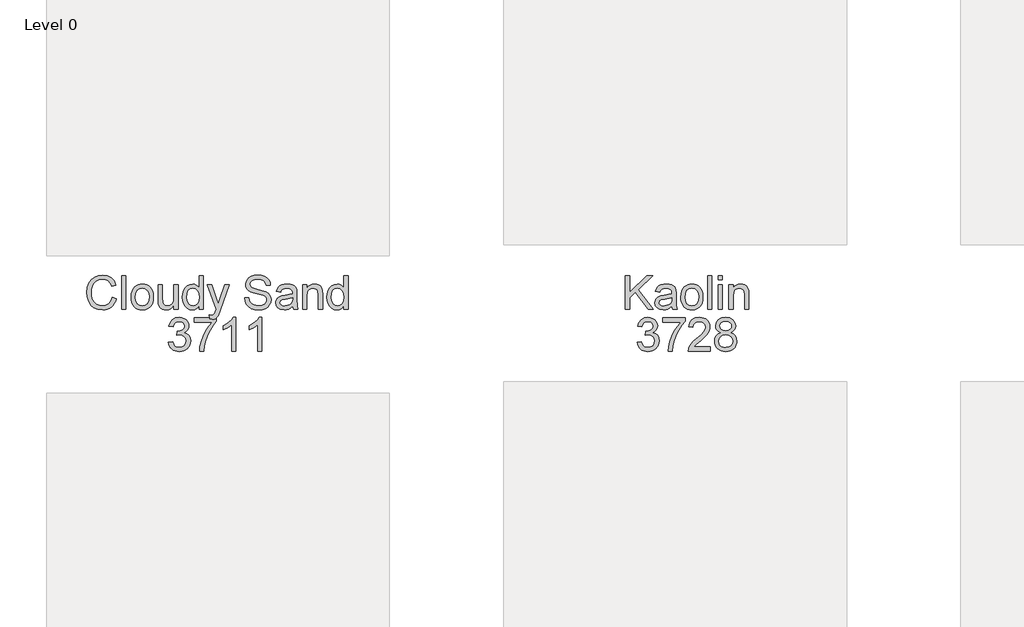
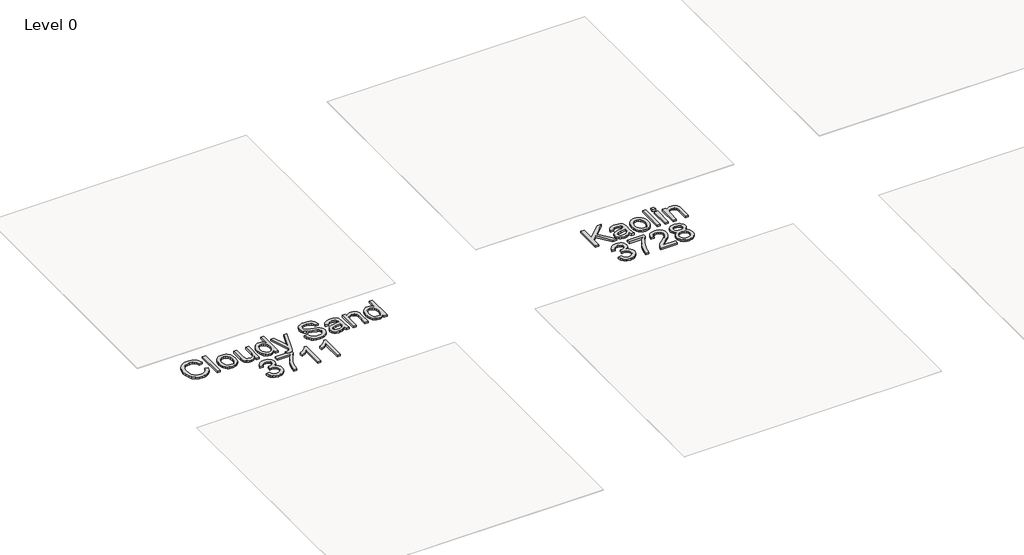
# One storey, part 2 of 14: 2 proxies.
"""IFC4 building model written with IfcOpenShell, lengths in millimetres."""

import ifcopenshell
import ifcopenshell.guid

model = None  # the IFC model being written
_history = None  # IfcOwnerHistory: only IFC2X3 demands one
_inside = {}  # id of a spatial element -> (the spatial element, [elements in it])
_under = {}  # id of a project, library or spatial element -> (it, [spatial elements below it])
_declared = {}  # id of a project -> (the project, [libraries it declares])
_typed = {}  # id of a type object -> (the type object, [elements of that type])
_made_of = {}  # id of a material, layer set ... -> (it, [elements and type objects made of it])


def new_model(schema):
    """Start an empty IFC model of exactly this schema.

    Asked for "IFC4X3", IfcOpenShell would pick the latest addendum, in which some entities
    have other attributes; the version numbers below select the first issue.
    IFC2X3 requires an IfcOwnerHistory on every rooted entity: one is made here for all.
    """
    global model, _history
    if schema == "IFC4X3":
        model = ifcopenshell.file(schema_version=(4, 3, 0, 0))
    else:
        model = ifcopenshell.file(schema=schema)
    _inside.clear()
    _under.clear()
    _declared.clear()
    _typed.clear()
    _made_of.clear()
    _history = None
    if model.schema == "IFC2X3":
        org = make("IfcOrganization", Name="unknown")
        user = make(
            "IfcPersonAndOrganization",
            ThePerson=make("IfcPerson", FamilyName="unknown"),
            TheOrganization=org,
        )
        app = make(
            "IfcApplication",
            ApplicationDeveloper=org,
            Version="unknown",
            ApplicationFullName="unknown",
            ApplicationIdentifier="unknown",
        )
        _history = make(
            "IfcOwnerHistory",
            OwningUser=user,
            OwningApplication=app,
            ChangeAction="ADDED",
            CreationDate=0,
        )
    return model


def make(cls, **values):
    """One entity of the class cls with the attributes given. An attribute that is None is left unset."""
    return model.create_entity(
        cls, **{name: value for name, value in values.items() if value is not None}
    )


def rooted(cls, **values):
    """An entity with a GlobalId (a new one), such as an element, a storey or a relation."""
    return make(cls, GlobalId=ifcopenshell.guid.new(), OwnerHistory=_history, **values)


def si_unit(unit_type, name, prefix=None):
    """IfcSIUnit, for example si_unit("LENGTHUNIT", "METRE", prefix="MILLI")."""
    return make("IfcSIUnit", UnitType=unit_type, Prefix=prefix, Name=name)


def assignment(units):
    """IfcUnitAssignment: the units of a project."""
    return None if units is None else make("IfcUnitAssignment", Units=units)


def point(xyz):
    """IfcCartesianPoint."""
    return None if xyz is None else make("IfcCartesianPoint", Coordinates=xyz)


def direction(xyz):
    """IfcDirection."""
    return None if xyz is None else make("IfcDirection", DirectionRatios=xyz)


def frame(location, z_axis=None, x_axis=None):
    """IfcAxis2Placement3D, a coordinate frame: its origin and axes. An axis left out is left unset."""
    return make(
        "IfcAxis2Placement3D",
        Location=point(location),
        Axis=direction(z_axis),
        RefDirection=direction(x_axis),
    )


def origin():
    """The frame at (0, 0, 0) with its axes left unset."""
    return frame((0.0, 0.0, 0.0))


def origin_with_axes():
    """The frame at (0, 0, 0) with the z axis (0, 0, 1) and the x axis (1, 0, 0) written out."""
    return frame((0.0, 0.0, 0.0), z_axis=(0.0, 0.0, 1.0), x_axis=(1.0, 0.0, 0.0))


def place(relative_to, where):
    """IfcLocalPlacement: puts the frame where relative to a parent placement (None: the world)."""
    return make(
        "IfcLocalPlacement", PlacementRelTo=relative_to, RelativePlacement=where
    )


def context(
    kind, dimensions, precision=None, world=None, true_north=None, identifier=None
):
    """IfcGeometricRepresentationContext, for example the 3D "Model" context."""
    return make(
        "IfcGeometricRepresentationContext",
        ContextIdentifier=identifier,
        ContextType=kind,
        CoordinateSpaceDimension=dimensions,
        Precision=precision,
        WorldCoordinateSystem=world,
        TrueNorth=true_north,
    )


def project(units=None, contexts=None):
    """IfcProject with its units and contexts."""
    return rooted(
        "IfcProject",
        Name="project",
        RepresentationContexts=contexts,
        UnitsInContext=assignment(units),
    )


def spatial(cls, under=None, at=None, **own):
    """A site, building, storey or space (cls), placed at a placement, below another one or the project."""
    s = rooted(cls, ObjectPlacement=at, **own)
    if under is not None:
        _under.setdefault(under.id(), (under, []))[1].append(s)
    return s


def polyline(points):
    """IfcPolyline through the points."""
    return make("IfcPolyline", Points=[point(p) for p in points])


def outline(outer, holes=None, kind="AREA"):
    """IfcArbitraryClosedProfileDef: a profile drawn as a closed curve; with holes, ...WithVoids."""
    if holes is None:
        return make("IfcArbitraryClosedProfileDef", ProfileType=kind, OuterCurve=outer)
    return make(
        "IfcArbitraryProfileDefWithVoids",
        ProfileType=kind,
        OuterCurve=outer,
        InnerCurves=holes,
    )


def extrude(swept, where, along, depth):
    """IfcExtrudedAreaSolid: the profile swept, set in the frame where, extruded along a direction by depth."""
    return make(
        "IfcExtrudedAreaSolid",
        SweptArea=swept,
        Position=where,
        ExtrudedDirection=direction(along),
        Depth=depth,
    )


def shape(context_of_items, identifier, shape_type, items):
    """IfcShapeRepresentation: the items that make up one representation, for example the "Body"."""
    return make(
        "IfcShapeRepresentation",
        ContextOfItems=context_of_items,
        RepresentationIdentifier=identifier,
        RepresentationType=shape_type,
        Items=items,
    )


def made_of(thing, what):
    """Note that an element or type object is made of a material, layer set ...; save() writes the relation."""
    if what is not None:
        _made_of.setdefault(what.id(), (what, []))[1].append(thing)
    return thing


def element(
    cls,
    number,
    at=None,
    inside=None,
    cuts=None,
    type_object=None,
    material=None,
    context=None,
    identifier="Body",
    shape_type=None,
    held_by="IfcProductDefinitionShape",
    body=None,
    shapes=None,
    **own,
):
    """One element of the class cls, such as IfcWall. Its Tag is "e" and its number.

    at: its placement. inside: the storey or other place that contains it. cuts: it is an
    opening in that element (IfcRelVoidsElement). A single representation is given by context,
    identifier, shape_type and body (its items); several are given by shapes. held_by: the class
    of the entity that holds the representations. save() writes the other relations.
    """
    e = rooted(cls, Tag="e%d" % number, ObjectPlacement=at, **own)
    if body is not None:
        shapes = [shape(context, identifier, shape_type, body)]
    if shapes is not None:
        e.Representation = make(held_by, Representations=shapes)
    if inside is not None:
        _inside.setdefault(inside.id(), (inside, []))[1].append(e)
    if cuts is not None:
        rooted(
            "IfcRelVoidsElement", RelatingBuildingElement=cuts, RelatedOpeningElement=e
        )
    if type_object is not None:
        _typed.setdefault(type_object.id(), (type_object, []))[1].append(e)
    return made_of(e, material)


def aggregate(whole, parts):
    """IfcRelAggregates: a whole, such as a stair, and the parts it consists of."""
    return rooted("IfcRelAggregates", RelatingObject=whole, RelatedObjects=parts)


def save(model, path):
    """Write the relations noted so far, then the file.

    IfcRelAggregates (storeys below a building ...), IfcRelContainedInSpatialStructure (elements
    in a storey), IfcRelDefinesByType, IfcRelAssociatesMaterial and IfcRelDeclares: one each for
    every whole, place, type object, material and project.
    """
    for whole, parts in _under.values():
        aggregate(whole, parts)
    for where, things in _inside.values():
        rooted(
            "IfcRelContainedInSpatialStructure",
            RelatedElements=things,
            RelatingStructure=where,
        )
    for kind, things in _typed.values():
        rooted("IfcRelDefinesByType", RelatedObjects=things, RelatingType=kind)
    for what, things in _made_of.values():
        rooted("IfcRelAssociatesMaterial", RelatedObjects=things, RelatingMaterial=what)
    for by, libraries in _declared.values():
        rooted("IfcRelDeclares", RelatingContext=by, RelatedDefinitions=libraries)
    model.write(path)


model = new_model("IFC4")

# Units and contexts
model_context = context("Model", 3, world=origin())
ifc_project = project(units=[si_unit("LENGTHUNIT", "METRE", prefix="MILLI")], contexts=[model_context])

# Site, building, storey
site = spatial("IfcSite", under=ifc_project)
building = spatial("IfcBuilding", under=site)
storey = spatial("IfcBuildingStorey", under=building, Name="Level 0", Elevation=0.0)

# Proxies
placement = place(None, origin())
element("IfcBuildingElementProxy", 1, Name="300mm Arial", ObjectType="300mm Arial", at=placement, inside=storey, context=model_context, shape_type="SweptSolid", body=[
    extrude(outline(polyline([(-8877.729111, -19232.1730179), (-8840.806034, -19241.6922486), (-8848.1122239, -19264.6542378), (-8857.8432937, -19284.71809), (-8869.9992432, -19301.8838051), (-8884.5800725, -19316.1513832), (-8901.2567552, -19327.3675792), (-8919.7002648, -19335.3791477), (-8939.9106014, -19340.1860888), (-8961.8877648, -19341.7884025), (-9004.7152889, -19336.9386429), (-9038.7267071, -19322.389364), (-9064.7964187, -19298.6453736), (-9083.7988225, -19266.2114794), (-9095.400385, -19228.0804698), (-9099.2675725, -19187.2451332), (-9094.8955773, -19144.1742198), (-9081.7795917, -19106.9807102), (-9060.6047119, -19076.8454938), (-9032.056034, -19054.9494602), (-8998.197861, -19041.6171284), (-8961.0944956, -19037.1730179), (-8920.6107215, -19042.9242198), (-8902.9987925, -19050.1132222), (-8887.1401687, -19060.1778255), (-8873.2962684, -19072.8521044), (-8861.72851, -19087.8701332), (-8845.4214187, -19124.9374409), (-8882.3444956, -19133.7355179), (-8895.1449764, -19106.8094361), (-8912.6329571, -19088.3388832), (-8935.024784, -19077.6567919), (-8962.5368033, -19074.0960948), (-8994.2495437, -19078.0444121), (-9020.3012264, -19089.889364), (-9040.0698562, -19108.3869602), (-9052.9334379, -19132.2932102), (-9059.9917312, -19159.3184505), (-9062.3444956, -19187.1730179), (-9059.5590389, -19221.2835948), (-9051.2026687, -19250.7787871), (-9036.9598802, -19274.5317919), (-9016.5151687, -19291.4158063), (-8992.0049523, -19301.5029457), (-8965.5656494, -19304.8653255), (-8934.7453369, -19300.2859986), (-8909.0632456, -19286.5480179), (-8889.6732215, -19263.795614), (-8877.729111, -19232.1730179)])), origin_with_axes(), (0.0, 0.0, 1.0), 20.0),
    extrude(outline(polyline([(-8794.6521879, -19337.1730179), (-8794.6521879, -19041.7884025), (-8757.729111, -19041.7884025), (-8757.729111, -19337.1730179), (-8794.6521879, -19337.1730179)])), origin_with_axes(), (0.0, 0.0, 1.0), 20.0),
    extrude(outline(polyline([(-8711.5752648, -19228.7114794), (-8709.5785701, -19200.6180299), (-8703.588486, -19176.4097967), (-8693.6050124, -19156.0867799), (-8679.6281494, -19139.6489794), (-8665.556635, -19129.1426693), (-8650.024784, -19121.6381621), (-8633.0325965, -19117.1354578), (-8614.5800725, -19115.6345563), (-8594.20973, -19117.4622306), (-8575.79101, -19122.9452534), (-8559.3239127, -19132.0836248), (-8544.8084379, -19144.8773448), (-8532.9612324, -19160.893721), (-8524.4989427, -19179.7000611), (-8519.4215689, -19201.2963652), (-8517.729111, -19225.6826332), (-8520.7218994, -19262.9843159), (-8529.7002648, -19291.3797486), (-8544.4027889, -19312.6447727), (-8564.5680533, -19328.5552294), (-8588.5193754, -19338.4801092), (-8614.5800725, -19341.7884025), (-8635.247891, -19339.967489), (-8653.837885, -19334.5047486), (-8670.3500545, -19325.4001813), (-8684.7843994, -19312.6537871), (-8696.505403, -19296.4819121), (-8704.8775485, -19277.1009025), (-8709.9008357, -19254.5107582), (-8711.5752648, -19228.7114794)]), holes=[polyline([(-8674.6521879, -19228.639364), (-8670.3793514, -19262.0558304), (-8657.5608417, -19285.8629217), (-8638.2699764, -19300.1147246), (-8614.5800725, -19304.8653255), (-8590.9983417, -19300.0876813), (-8571.743534, -19285.7547486), (-8558.9250244, -19261.6321525), (-8554.6521879, -19227.4855179), (-8558.9520677, -19195.0426092), (-8571.8517071, -19171.5600371), (-8591.1335581, -19157.3082342), (-8614.5800725, -19152.5576332), (-8638.2699764, -19157.2902054), (-8657.5608417, -19171.4879217), (-8670.3793514, -19195.2409265), (-8674.6521879, -19228.639364)])]), origin_with_axes(), (0.0, 0.0, 1.0), 20.0),
    extrude(outline(polyline([(-8337.729111, -19337.1730179), (-8337.729111, -19299.889364), (-8351.088486, -19318.2201933), (-8366.6473802, -19331.3136429), (-8384.4057937, -19339.1697126), (-8404.3637264, -19341.7884025), (-8422.3475004, -19339.9494602), (-8439.087284, -19334.4326332), (-8453.1317552, -19326.139364), (-8463.0295917, -19315.9710948), (-8474.0271879, -19288.7835948), (-8476.1906494, -19254.4566717), (-8476.1906494, -19120.2499409), (-8439.2675725, -19120.2499409), (-8439.2675725, -19237.076864), (-8437.0319956, -19274.7210948), (-8431.650385, -19287.2781861), (-8422.4286302, -19296.8244602), (-8409.9797119, -19302.8551092), (-8394.916611, -19304.8653255), (-8378.9881254, -19302.8100371), (-8364.087284, -19296.6441717), (-8351.8006254, -19286.935638), (-8343.7146879, -19274.2523448), (-8339.2255052, -19256.8815515), (-8337.729111, -19233.1105179), (-8337.729111, -19120.2499409), (-8300.806034, -19120.2499409), (-8300.806034, -19337.1730179), (-8337.729111, -19337.1730179)])), origin_with_axes(), (0.0, 0.0, 1.0), 20.0),
    extrude(outline(polyline([(-8116.1906494, -19337.1730179), (-8116.1906494, -19302.3412871), (-8127.2378249, -19319.5994001), (-8140.619736, -19331.9266236), (-8156.3363826, -19339.3229578), (-8174.3877648, -19341.7884025), (-8198.2579571, -19338.2186909), (-8220.1089187, -19327.5095563), (-8238.6065148, -19310.4091957), (-8252.416611, -19287.6658063), (-8261.0163706, -19260.1988592), (-8263.8829571, -19228.9278255), (-8261.2417312, -19198.0444121), (-8253.3180533, -19170.1537871), (-8240.1209379, -19146.842489), (-8221.6593994, -19129.6970563), (-8199.3306735, -19119.1501813), (-8174.5319956, -19115.6345563), (-8156.4670917, -19118.1495804), (-8140.493534, -19125.6946525), (-8126.9538706, -19137.2601573), (-8116.1906494, -19151.8364794), (-8116.1906494, -19041.7884025), (-8079.2675725, -19041.7884025), (-8079.2675725, -19337.1730179), (-8116.1906494, -19337.1730179)]), holes=[polyline([(-8226.9598802, -19228.7835948), (-8222.7952167, -19262.1820323), (-8210.3012264, -19285.9350371), (-8192.1461783, -19300.1327534), (-8170.9983417, -19304.8653255), (-8149.8595196, -19300.3490996), (-8132.1642071, -19286.8004217), (-8120.1840389, -19263.966888), (-8116.1906494, -19231.5960948), (-8120.2561542, -19196.2054698), (-8132.4526687, -19171.6682102), (-8150.5987023, -19157.3352775), (-8172.5127648, -19152.5576332), (-8193.8769475, -19157.1459746), (-8211.3829571, -19170.9109986), (-8223.0656494, -19194.5558304), (-8226.9598802, -19228.7835948)])]), origin_with_axes(), (0.0, 0.0, 1.0), 20.0),
    extrude(outline(polyline([(-8023.8829571, -19420.2499409), (-8028.4983417, -19384.6970563), (-8009.7483417, -19387.9422486), (-7992.2243033, -19383.8677294), (-7981.479111, -19372.5095563), (-7971.3829571, -19345.3220563), (-7968.4983417, -19336.3797486), (-8046.9598802, -19120.2499409), (-8008.0175725, -19120.2499409), (-7966.4069956, -19240.6826332), (-7951.9118033, -19288.8557102), (-7937.416611, -19246.3076332), (-7894.6521879, -19120.2499409), (-7855.9983417, -19120.2499409), (-7931.5031494, -19342.3653255), (-7951.118534, -19390.5384025), (-7961.1606014, -19405.9170082), (-7972.5368033, -19416.5720563), (-7985.7519475, -19422.7920082), (-8001.3108417, -19424.8653255), (-8023.8829571, -19420.2499409)])), origin_with_axes(), (0.0, 0.0, 1.0), 20.0),
    extrude(outline(polyline([(-7719.2675725, -19235.6345563), (-7682.3444956, -19235.6345563), (-7678.1077167, -19256.12434), (-7670.4454571, -19272.5936909), (-7658.4923321, -19285.6646044), (-7641.3829571, -19295.9590755), (-7620.4694956, -19302.638763), (-7597.104111, -19304.8653255), (-7576.5331975, -19303.1796284), (-7558.5223802, -19298.1225371), (-7543.9280292, -19290.1177294), (-7533.6065148, -19279.5888832), (-7527.4676927, -19267.5005419), (-7525.4214187, -19254.8172486), (-7526.9538706, -19242.4584746), (-7531.5512264, -19231.7763832), (-7540.8901687, -19222.6628015), (-7556.6473802, -19215.0095563), (-7610.4093994, -19200.9109986), (-7645.7008658, -19191.5810707), (-7668.2819956, -19182.701864), (-7686.6624042, -19170.279989), (-7699.6882456, -19155.2259025), (-7707.4496639, -19137.8641236), (-7710.0368033, -19118.5191717), (-7706.8366831, -19096.8935707), (-7697.2363225, -19076.7283063), (-7681.4881254, -19059.6369602), (-7659.8444956, -19047.233114), (-7633.8649283, -19039.6880419), (-7605.1089187, -19037.1730179), (-7573.9550725, -19039.8052294), (-7546.6954571, -19047.701864), (-7524.3036302, -19060.7006621), (-7507.7531494, -19078.639364), (-7497.2783898, -19100.4001813), (-7493.1137264, -19124.8653255), (-7530.0368033, -19124.8653255), (-7536.8156494, -19102.8340755), (-7550.9502648, -19086.9326332), (-7573.0356014, -19077.3052294), (-7603.666611, -19074.0960948), (-7635.0187744, -19077.2691717), (-7656.5271879, -19086.7884025), (-7668.9670917, -19100.7968159), (-7673.1137264, -19117.4374409), (-7670.1750244, -19131.6261429), (-7661.3589187, -19143.0384025), (-7640.5175725, -19153.2427294), (-7601.0704571, -19163.6634025), (-7535.7339187, -19182.1970563), (-7514.6852408, -19195.592489), (-7500.0007456, -19212.1249409), (-7491.3739427, -19231.6141236), (-7488.4983417, -19253.8797486), (-7491.806635, -19276.6411669), (-7501.7315148, -19298.0504217), (-7517.8673321, -19316.4759025), (-7539.8084379, -19330.2859986), (-7566.1936542, -19338.9128015), (-7595.6618033, -19341.7884025), (-7631.8366831, -19338.6874409), (-7661.6113225, -19329.3845563), (-7685.3282696, -19313.8436909), (-7703.3300725, -19292.0287871), (-7714.8865629, -19265.4542679), (-7719.2675725, -19235.6345563)])), origin_with_axes(), (0.0, 0.0, 1.0), 20.0),
    extrude(outline(polyline([(-7299.2675725, -19309.4807102), (-7316.9087985, -19324.6069121), (-7335.072861, -19334.5047486), (-7354.1744235, -19339.967489), (-7374.6281494, -19341.7884025), (-7405.4845196, -19337.4073929), (-7428.2459379, -19324.264364), (-7442.2813946, -19304.3064313), (-7446.9598802, -19279.4807102), (-7445.1930533, -19264.1742198), (-7439.8925725, -19250.2739794), (-7431.7164908, -19238.3749409), (-7421.322861, -19229.0720563), (-7395.4694956, -19216.9566717), (-7363.5223802, -19211.4037871), (-7325.7699764, -19205.5624409), (-7299.4839187, -19198.7114794), (-7299.2675725, -19190.4903255), (-7301.8096398, -19174.0119602), (-7309.4358417, -19163.2307102), (-7326.4911302, -19155.2259025), (-7350.2531494, -19152.5576332), (-7372.2483417, -19154.3334746), (-7387.6089187, -19159.6609986), (-7398.0836783, -19169.513763), (-7405.4214187, -19184.8653255), (-7442.3444956, -19180.2499409), (-7435.9352408, -19160.0576332), (-7426.3709379, -19144.1922486), (-7412.759159, -19132.0588352), (-7394.2074764, -19123.0624409), (-7371.5181735, -19117.4915275), (-7345.493534, -19115.6345563), (-7320.5325965, -19117.2751813), (-7300.7459379, -19122.1970563), (-7285.8270677, -19129.5978977), (-7275.4694956, -19138.6754217), (-7268.6005052, -19149.8983784), (-7264.1473802, -19163.7355179), (-7262.3444956, -19196.0432102), (-7262.3444956, -19241.9807102), (-7260.4694956, -19306.1273448), (-7253.1137264, -19337.1730179), (-7290.0368033, -19337.1730179), (-7299.2675725, -19309.4807102)]), holes=[polyline([(-7299.2675725, -19235.6345563), (-7358.8348802, -19246.9566717), (-7390.6017071, -19252.9422486), (-7404.9887264, -19262.6778255), (-7410.0368033, -19276.8845563), (-7407.2874042, -19287.8641236), (-7399.0392071, -19296.8605179), (-7385.4725004, -19302.8641236), (-7366.7675725, -19304.8653255), (-7346.9358417, -19302.6567919), (-7329.4118033, -19296.0311909), (-7315.2050725, -19286.2685707), (-7305.3252648, -19274.6489794), (-7300.9442552, -19262.6778255), (-7299.4839187, -19246.0912871), (-7299.2675725, -19235.6345563)])]), origin_with_axes(), (0.0, 0.0, 1.0), 20.0),
    extrude(outline(polyline([(-7211.5752648, -19337.1730179), (-7211.5752648, -19120.2499409), (-7174.6521879, -19120.2499409), (-7174.6521879, -19150.5384025), (-7161.8246639, -19135.2679698), (-7146.4190148, -19124.3605179), (-7128.4352408, -19117.8160467), (-7107.8733417, -19115.6345563), (-7089.6732215, -19117.3923688), (-7073.0055533, -19122.6658063), (-7059.1053129, -19130.7968159), (-7049.2074764, -19141.1273448), (-7038.1377648, -19168.2787871), (-7036.1906494, -19203.9759025), (-7036.1906494, -19337.1730179), (-7073.1137264, -19337.1730179), (-7073.1137264, -19208.951864), (-7077.368534, -19176.2835948), (-7083.2549523, -19166.5570323), (-7092.4045917, -19159.0119602), (-7104.1323562, -19154.171215), (-7117.7531494, -19152.5576332), (-7139.3787504, -19156.1814313), (-7157.8132456, -19167.0528255), (-7165.1802828, -19175.9275251), (-7170.4424523, -19188.0564313), (-7174.6521879, -19222.076864), (-7174.6521879, -19337.1730179), (-7211.5752648, -19337.1730179)])), origin_with_axes(), (0.0, 0.0, 1.0), 20.0),
    extrude(outline(polyline([(-6851.5752648, -19337.1730179), (-6851.5752648, -19302.3412871), (-6862.6224403, -19319.5994001), (-6876.0043514, -19331.9266236), (-6891.720998, -19339.3229578), (-6909.7723802, -19341.7884025), (-6933.6425725, -19338.2186909), (-6955.493534, -19327.5095563), (-6973.9911302, -19310.4091957), (-6987.8012264, -19287.6658063), (-6996.400986, -19260.1988592), (-6999.2675725, -19228.9278255), (-6996.6263465, -19198.0444121), (-6988.7026687, -19170.1537871), (-6975.5055533, -19146.842489), (-6957.0440148, -19129.6970563), (-6934.7152889, -19119.1501813), (-6909.916611, -19115.6345563), (-6891.8517071, -19118.1495804), (-6875.8781494, -19125.6946525), (-6862.338486, -19137.2601573), (-6851.5752648, -19151.8364794), (-6851.5752648, -19041.7884025), (-6814.6521879, -19041.7884025), (-6814.6521879, -19337.1730179), (-6851.5752648, -19337.1730179)]), holes=[polyline([(-6962.3444956, -19228.7835948), (-6958.1798321, -19262.1820323), (-6945.6858417, -19285.9350371), (-6927.5307937, -19300.1327534), (-6906.3829571, -19304.8653255), (-6885.244135, -19300.3490996), (-6867.5488225, -19286.8004217), (-6855.5686542, -19263.966888), (-6851.5752648, -19231.5960948), (-6855.6407696, -19196.2054698), (-6867.837284, -19171.6682102), (-6885.9833177, -19157.3352775), (-6907.8973802, -19152.5576332), (-6929.2615629, -19157.1459746), (-6946.7675725, -19170.9109986), (-6958.4502648, -19194.5558304), (-6962.3444956, -19228.7835948)])]), origin_with_axes(), (0.0, 0.0, 1.0), 20.0),
    extrude(outline(polyline([(-8386.1906494, -19623.326864), (-8349.2675725, -19618.7114794), (-8341.0013465, -19641.9146044), (-8328.8949764, -19657.5816717), (-8312.35351, -19666.5059505), (-8290.7819956, -19669.4807102), (-8265.4694956, -19665.3881621), (-8245.9262264, -19653.1105179), (-8233.432236, -19634.7932102), (-8229.2675725, -19612.5816717), (-8233.3961783, -19591.4969361), (-8245.7819956, -19574.3965755), (-8264.5319956, -19563.0654457), (-8287.7531494, -19559.2884025), (-8313.6425725, -19563.326864), (-8309.5319956, -19526.4037871), (-8303.618534, -19526.8364794), (-8281.4971398, -19524.186239), (-8261.7194956, -19516.2355179), (-8247.7651687, -19502.7859986), (-8243.1137264, -19483.639364), (-8246.4851206, -19467.6928496), (-8256.5993033, -19454.7571525), (-8272.0319956, -19446.1844361), (-8291.3589187, -19443.326864), (-8310.7218994, -19446.2114794), (-8326.5512264, -19454.8653255), (-8338.1077167, -19469.2884025), (-8344.6521879, -19489.4807102), (-8381.5752648, -19484.8653255), (-8370.7038706, -19451.7102775), (-8351.3589187, -19426.9566717), (-8324.8925725, -19411.5420082), (-8292.6569956, -19406.4037871), (-8269.4448562, -19408.93684), (-8248.1257456, -19416.5359986), (-8230.150986, -19428.5251813), (-8216.9718994, -19444.2283063), (-8208.8859619, -19462.3202534), (-8206.1906494, -19481.4759025), (-8208.7507456, -19499.3244602), (-8216.431034, -19515.514364), (-8229.1233417, -19529.3064313), (-8246.7194956, -19539.9614794), (-8223.6065148, -19549.3004217), (-8206.479111, -19565.201864), (-8195.8781494, -19586.8004217), (-8192.3444956, -19613.2307102), (-8194.1113225, -19631.9626813), (-8199.4118033, -19649.2162871), (-8208.2459379, -19664.9915275), (-8220.6137264, -19679.2884025), (-8235.6813345, -19691.1513832), (-8252.6149283, -19699.6249409), (-8271.4145076, -19704.7090755), (-8292.0800725, -19706.4037871), (-8327.7771879, -19700.6165275), (-8343.1377648, -19693.3824529), (-8356.8396879, -19683.2547486), (-8368.3285701, -19670.8283664), (-8377.0500244, -19656.6982582), (-8386.1906494, -19623.326864)])), origin_with_axes(), (0.0, 0.0, 1.0), 20.0),
    extrude(outline(polyline([(-8160.0368033, -19447.9422486), (-8160.0368033, -19411.0191717), (-7966.1906494, -19411.0191717), (-7966.1906494, -19440.8749409), (-7993.8198562, -19475.841888), (-8021.1786302, -19520.3100371), (-8045.3102408, -19570.2228977), (-8063.2579571, -19621.5239794), (-8072.056034, -19659.9073929), (-8076.9598802, -19701.7884025), (-8113.8829571, -19701.7884025), (-8109.8895677, -19663.7295082), (-8099.2074764, -19618.4951332), (-8082.1251446, -19570.5474169), (-8058.931034, -19524.3484986), (-8031.8517071, -19482.5846765), (-8003.1137264, -19447.9422486), (-8160.0368033, -19447.9422486)])), origin_with_axes(), (0.0, 0.0, 1.0), 20.0),
    extrude(outline(polyline([(-7795.4214187, -19701.7884025), (-7832.3444956, -19701.7884025), (-7832.3444956, -19471.5960948), (-7867.3204571, -19496.5119602), (-7906.1906494, -19515.1537871), (-7906.1906494, -19480.2499409), (-7877.1912504, -19464.4747005), (-7852.0680533, -19445.7066717), (-7832.2633658, -19425.748739), (-7819.2194956, -19406.4037871), (-7795.4214187, -19406.4037871), (-7795.4214187, -19701.7884025)])), origin_with_axes(), (0.0, 0.0, 1.0), 20.0),
    extrude(outline(polyline([(-7569.2675725, -19701.7884025), (-7606.1906494, -19701.7884025), (-7606.1906494, -19471.5960948), (-7641.166611, -19496.5119602), (-7680.0368033, -19515.1537871), (-7680.0368033, -19480.2499409), (-7651.0374042, -19464.4747005), (-7625.9142071, -19445.7066717), (-7606.1095196, -19425.748739), (-7593.0656494, -19406.4037871), (-7569.2675725, -19406.4037871), (-7569.2675725, -19701.7884025)])), origin_with_axes(), (0.0, 0.0, 1.0), 20.0),
])
element("IfcBuildingElementProxy", 2, Name="300mm Arial", ObjectType="300mm Arial", at=placement, inside=storey, context=model_context, shape_type="SweptSolid", body=[
    extrude(outline(polyline([(-4387.729111, -19337.1730179), (-4387.729111, -19041.7884025), (-4350.806034, -19041.7884025), (-4350.806034, -19186.3797486), (-4199.3637264, -19041.7884025), (-4147.729111, -19041.7884025), (-4274.868534, -19163.2307102), (-4143.1137264, -19337.1730179), (-4188.2579571, -19337.1730179), (-4301.0464187, -19188.1826332), (-4350.806034, -19235.6345563), (-4350.806034, -19337.1730179), (-4387.729111, -19337.1730179)])), origin_with_axes(), (0.0, 0.0, 1.0), 20.0),
    extrude(outline(polyline([(-3981.5752648, -19309.4807102), (-3999.2164908, -19324.6069121), (-4017.3805533, -19334.5047486), (-4036.4821158, -19339.967489), (-4056.9358417, -19341.7884025), (-4087.7922119, -19337.4073929), (-4110.5536302, -19324.264364), (-4124.5890869, -19304.3064313), (-4129.2675725, -19279.4807102), (-4127.5007456, -19264.1742198), (-4122.2002648, -19250.2739794), (-4114.0241831, -19238.3749409), (-4103.6305533, -19229.0720563), (-4077.7771879, -19216.9566717), (-4045.8300725, -19211.4037871), (-4008.0776687, -19205.5624409), (-3981.791611, -19198.7114794), (-3981.5752648, -19190.4903255), (-3984.1173321, -19174.0119602), (-3991.743534, -19163.2307102), (-4008.7988225, -19155.2259025), (-4032.5608417, -19152.5576332), (-4054.556034, -19154.3334746), (-4069.916611, -19159.6609986), (-4080.3913706, -19169.513763), (-4087.729111, -19184.8653255), (-4124.6521879, -19180.2499409), (-4118.2429331, -19160.0576332), (-4108.6786302, -19144.1922486), (-4095.0668514, -19132.0588352), (-4076.5151687, -19123.0624409), (-4053.8258658, -19117.4915275), (-4027.8012264, -19115.6345563), (-4002.8402889, -19117.2751813), (-3983.0536302, -19122.1970563), (-3968.13476, -19129.5978977), (-3957.7771879, -19138.6754217), (-3950.9081975, -19149.8983784), (-3946.4550725, -19163.7355179), (-3944.6521879, -19196.0432102), (-3944.6521879, -19241.9807102), (-3942.7771879, -19306.1273448), (-3935.4214187, -19337.1730179), (-3972.3444956, -19337.1730179), (-3981.5752648, -19309.4807102)]), holes=[polyline([(-3981.5752648, -19235.6345563), (-4041.1425725, -19246.9566717), (-4072.9093994, -19252.9422486), (-4087.2964187, -19262.6778255), (-4092.3444956, -19276.8845563), (-4089.5950965, -19287.8641236), (-4081.3468994, -19296.8605179), (-4067.7801927, -19302.8641236), (-4049.0752648, -19304.8653255), (-4029.243534, -19302.6567919), (-4011.7194956, -19296.0311909), (-3997.5127648, -19286.2685707), (-3987.6329571, -19274.6489794), (-3983.2519475, -19262.6778255), (-3981.791611, -19246.0912871), (-3981.5752648, -19235.6345563)])]), origin_with_axes(), (0.0, 0.0, 1.0), 20.0),
    extrude(outline(polyline([(-3903.1137264, -19228.7114794), (-3901.1170316, -19200.6180299), (-3895.1269475, -19176.4097967), (-3885.1434739, -19156.0867799), (-3871.166611, -19139.6489794), (-3857.0950965, -19129.1426693), (-3841.5632456, -19121.6381621), (-3824.5710581, -19117.1354578), (-3806.118534, -19115.6345563), (-3785.7481915, -19117.4622306), (-3767.3294715, -19122.9452534), (-3750.8623742, -19132.0836248), (-3736.3468994, -19144.8773448), (-3724.4996939, -19160.893721), (-3716.0374042, -19179.7000611), (-3710.9600304, -19201.2963652), (-3709.2675725, -19225.6826332), (-3712.260361, -19262.9843159), (-3721.2387264, -19291.3797486), (-3735.9412504, -19312.6447727), (-3756.1065148, -19328.5552294), (-3780.0578369, -19338.4801092), (-3806.118534, -19341.7884025), (-3826.7863526, -19339.967489), (-3845.3763465, -19334.5047486), (-3861.888516, -19325.4001813), (-3876.322861, -19312.6537871), (-3888.0438646, -19296.4819121), (-3896.41601, -19277.1009025), (-3901.4392973, -19254.5107582), (-3903.1137264, -19228.7114794)]), holes=[polyline([(-3866.1906494, -19228.639364), (-3861.9178129, -19262.0558304), (-3849.0993033, -19285.8629217), (-3829.8084379, -19300.1147246), (-3806.118534, -19304.8653255), (-3782.5368033, -19300.0876813), (-3763.2819956, -19285.7547486), (-3750.463486, -19261.6321525), (-3746.1906494, -19227.4855179), (-3750.4905292, -19195.0426092), (-3763.3901687, -19171.5600371), (-3782.6720196, -19157.3082342), (-3806.118534, -19152.5576332), (-3829.8084379, -19157.2902054), (-3849.0993033, -19171.4879217), (-3861.9178129, -19195.2409265), (-3866.1906494, -19228.639364)])]), origin_with_axes(), (0.0, 0.0, 1.0), 20.0),
    extrude(outline(polyline([(-3667.729111, -19337.1730179), (-3667.729111, -19041.7884025), (-3630.806034, -19041.7884025), (-3630.806034, -19337.1730179), (-3667.729111, -19337.1730179)])), origin_with_axes(), (0.0, 0.0, 1.0), 20.0),
    extrude(outline(polyline([(-3575.4214187, -19078.7114794), (-3575.4214187, -19041.7884025), (-3538.4983417, -19041.7884025), (-3538.4983417, -19078.7114794), (-3575.4214187, -19078.7114794)])), origin_with_axes(), (0.0, 0.0, 1.0), 20.0),
    extrude(outline(polyline([(-3575.4214187, -19337.1730179), (-3575.4214187, -19120.2499409), (-3538.4983417, -19120.2499409), (-3538.4983417, -19337.1730179), (-3575.4214187, -19337.1730179)])), origin_with_axes(), (0.0, 0.0, 1.0), 20.0),
    extrude(outline(polyline([(-3483.1137264, -19337.1730179), (-3483.1137264, -19120.2499409), (-3446.1906494, -19120.2499409), (-3446.1906494, -19150.5384025), (-3433.3631254, -19135.2679698), (-3417.9574764, -19124.3605179), (-3399.9737023, -19117.8160467), (-3379.4118033, -19115.6345563), (-3361.2116831, -19117.3923688), (-3344.5440148, -19122.6658063), (-3330.6437744, -19130.7968159), (-3320.7459379, -19141.1273448), (-3309.6762264, -19168.2787871), (-3307.729111, -19203.9759025), (-3307.729111, -19337.1730179), (-3344.6521879, -19337.1730179), (-3344.6521879, -19208.951864), (-3348.9069956, -19176.2835948), (-3354.7934139, -19166.5570323), (-3363.9430533, -19159.0119602), (-3375.6708177, -19154.171215), (-3389.291611, -19152.5576332), (-3410.9172119, -19156.1814313), (-3429.3517071, -19167.0528255), (-3436.7187444, -19175.9275251), (-3441.9809139, -19188.0564313), (-3446.1906494, -19222.076864), (-3446.1906494, -19337.1730179), (-3483.1137264, -19337.1730179)])), origin_with_axes(), (0.0, 0.0, 1.0), 20.0),
    extrude(outline(polyline([(-4286.1906494, -19623.326864), (-4249.2675725, -19618.7114794), (-4241.0013465, -19641.9146044), (-4228.8949764, -19657.5816717), (-4212.35351, -19666.5059505), (-4190.7819956, -19669.4807102), (-4165.4694956, -19665.3881621), (-4145.9262264, -19653.1105179), (-4133.432236, -19634.7932102), (-4129.2675725, -19612.5816717), (-4133.3961783, -19591.4969361), (-4145.7819956, -19574.3965755), (-4164.5319956, -19563.0654457), (-4187.7531494, -19559.2884025), (-4213.6425725, -19563.326864), (-4209.5319956, -19526.4037871), (-4203.618534, -19526.8364794), (-4181.4971398, -19524.186239), (-4161.7194956, -19516.2355179), (-4147.7651687, -19502.7859986), (-4143.1137264, -19483.639364), (-4146.4851206, -19467.6928496), (-4156.5993033, -19454.7571525), (-4172.0319956, -19446.1844361), (-4191.3589187, -19443.326864), (-4210.7218994, -19446.2114794), (-4226.5512264, -19454.8653255), (-4238.1077167, -19469.2884025), (-4244.6521879, -19489.4807102), (-4281.5752648, -19484.8653255), (-4270.7038706, -19451.7102775), (-4251.3589187, -19426.9566717), (-4224.8925725, -19411.5420082), (-4192.6569956, -19406.4037871), (-4169.4448562, -19408.93684), (-4148.1257456, -19416.5359986), (-4130.150986, -19428.5251813), (-4116.9718994, -19444.2283063), (-4108.8859619, -19462.3202534), (-4106.1906494, -19481.4759025), (-4108.7507456, -19499.3244602), (-4116.431034, -19515.514364), (-4129.1233417, -19529.3064313), (-4146.7194956, -19539.9614794), (-4123.6065148, -19549.3004217), (-4106.479111, -19565.201864), (-4095.8781494, -19586.8004217), (-4092.3444956, -19613.2307102), (-4094.1113225, -19631.9626813), (-4099.4118033, -19649.2162871), (-4108.2459379, -19664.9915275), (-4120.6137264, -19679.2884025), (-4135.6813345, -19691.1513832), (-4152.6149283, -19699.6249409), (-4171.4145076, -19704.7090755), (-4192.0800725, -19706.4037871), (-4227.7771879, -19700.6165275), (-4243.1377648, -19693.3824529), (-4256.8396879, -19683.2547486), (-4268.3285701, -19670.8283664), (-4277.0500244, -19656.6982582), (-4286.1906494, -19623.326864)])), origin_with_axes(), (0.0, 0.0, 1.0), 20.0),
    extrude(outline(polyline([(-4060.0368033, -19447.9422486), (-4060.0368033, -19411.0191717), (-3866.1906494, -19411.0191717), (-3866.1906494, -19440.8749409), (-3893.8198562, -19475.841888), (-3921.1786302, -19520.3100371), (-3945.3102408, -19570.2228977), (-3963.2579571, -19621.5239794), (-3972.056034, -19659.9073929), (-3976.9598802, -19701.7884025), (-4013.8829571, -19701.7884025), (-4009.8895677, -19663.7295082), (-3999.2074764, -19618.4951332), (-3982.1251446, -19570.5474169), (-3958.931034, -19524.3484986), (-3931.8517071, -19482.5846765), (-3903.1137264, -19447.9422486), (-4060.0368033, -19447.9422486)])), origin_with_axes(), (0.0, 0.0, 1.0), 20.0),
    extrude(outline(polyline([(-3644.6521879, -19664.8653255), (-3644.6521879, -19701.7884025), (-3838.4983417, -19701.7884025), (-3834.5319956, -19676.3316717), (-3825.4274283, -19656.43684), (-3812.104111, -19637.1369602), (-3792.8312744, -19616.935638), (-3765.8781494, -19594.3364794), (-3726.0343994, -19558.9458544), (-3702.1281494, -19532.8220563), (-3690.1750244, -19511.6201332), (-3686.1906494, -19490.9951332), (-3689.9496639, -19472.5065515), (-3701.2267071, -19457.1369602), (-3718.5614427, -19446.779388), (-3740.493534, -19443.326864), (-3763.525385, -19446.6982582), (-3781.4190148, -19456.8124409), (-3792.9664908, -19472.8761429), (-3796.9598802, -19494.0960948), (-3833.8829571, -19489.4807102), (-3824.931635, -19453.7655659), (-3816.5549824, -19439.5182703), (-3805.5776687, -19427.6778255), (-3792.2520977, -19418.3704337), (-3776.8306735, -19411.7222967), (-3739.7002648, -19406.4037871), (-3719.9113526, -19407.8821525), (-3702.2994235, -19412.3172486), (-3686.8644776, -19419.7090755), (-3673.6065148, -19430.0576332), (-3662.9582276, -19442.5966957), (-3655.3523081, -19456.5600371), (-3650.7887564, -19471.9476573), (-3649.2675725, -19488.7595563), (-3650.9081975, -19506.4188111), (-3655.8300725, -19523.7715755), (-3664.5650485, -19541.4218159), (-3677.6449764, -19559.9734986), (-3698.4953369, -19582.1219361), (-3730.541611, -19610.5624409), (-3773.0175725, -19646.0792679), (-3789.6762264, -19664.8653255), (-3644.6521879, -19664.8653255)])), origin_with_axes(), (0.0, 0.0, 1.0), 20.0),
    extrude(outline(polyline([(-3553.931034, -19539.0960948), (-3573.6996639, -19529.3605179), (-3587.572861, -19516.1634025), (-3595.7669715, -19499.7751813), (-3598.4983417, -19480.4662871), (-3592.5488225, -19451.6021044), (-3574.7002648, -19427.7499409), (-3561.814147, -19418.4109986), (-3546.9538706, -19411.7403255), (-3511.3108417, -19406.4037871), (-3475.4514667, -19411.8665275), (-3460.4289307, -19418.6949529), (-3447.3444956, -19428.2547486), (-3429.1714187, -19452.4855179), (-3424.6281494, -19466.3857582), (-3423.1137264, -19481.4759025), (-3425.8090389, -19500.1628015), (-3433.8949764, -19516.2715755), (-3447.4616831, -19529.3875611), (-3466.5993033, -19539.0960948), (-3443.8739427, -19550.8058304), (-3427.3324764, -19568.0504217), (-3417.2453369, -19590.0005419), (-3413.8829571, -19615.826864), (-3415.5506254, -19634.2433304), (-3420.5536302, -19651.1273448), (-3428.8919715, -19666.4789073), (-3440.5656494, -19680.2980179), (-3454.9616831, -19691.7192919), (-3471.4670917, -19699.8773448), (-3490.0818754, -19704.7721765), (-3510.806034, -19706.4037871), (-3531.5301927, -19704.7654157), (-3550.1449764, -19699.8503015), (-3566.650385, -19691.6584445), (-3581.0464187, -19680.1898448), (-3592.7200965, -19666.2738292), (-3601.0584379, -19650.7397246), (-3606.0614427, -19633.5875311), (-3607.729111, -19614.8172486), (-3604.2315148, -19587.9903255), (-3593.7387264, -19565.9230179), (-3576.791611, -19549.3725371), (-3553.931034, -19539.0960948)]), holes=[polyline([(-3570.806034, -19613.5191717), (-3564.6401687, -19641.3196525), (-3556.10351, -19653.2457342), (-3542.8252648, -19662.1249409), (-3526.9238225, -19667.6417679), (-3510.5175725, -19669.4807102), (-3485.385361, -19665.6135227), (-3466.5271879, -19654.0119602), (-3454.7363225, -19636.4428496), (-3450.806034, -19614.6730179), (-3454.8625244, -19592.5335948), (-3467.0319956, -19574.576864), (-3486.322861, -19562.6778255), (-3511.743534, -19558.7114794), (-3536.5241831, -19562.623739), (-3555.1930533, -19574.3605179), (-3566.9027889, -19591.9747005), (-3570.806034, -19613.5191717)]), polyline([(-3561.5752648, -19481.5480179), (-3558.3030292, -19497.6658063), (-3548.4863225, -19510.5384025), (-3532.4136062, -19518.9759025), (-3510.3733417, -19521.7884025), (-3488.8468994, -19518.9939313), (-3473.0175725, -19510.6105179), (-3463.2819956, -19498.170614), (-3460.0368033, -19483.2066717), (-3463.3901687, -19467.6748207), (-3473.4502648, -19454.8292679), (-3489.4959379, -19446.202465), (-3510.806034, -19443.326864), (-3532.2513465, -19446.139364), (-3548.2699764, -19454.576864), (-3558.2489427, -19466.9446525), (-3561.5752648, -19481.5480179)])]), origin_with_axes(), (0.0, 0.0, 1.0), 20.0),
])

save(model, "model.ifc")
